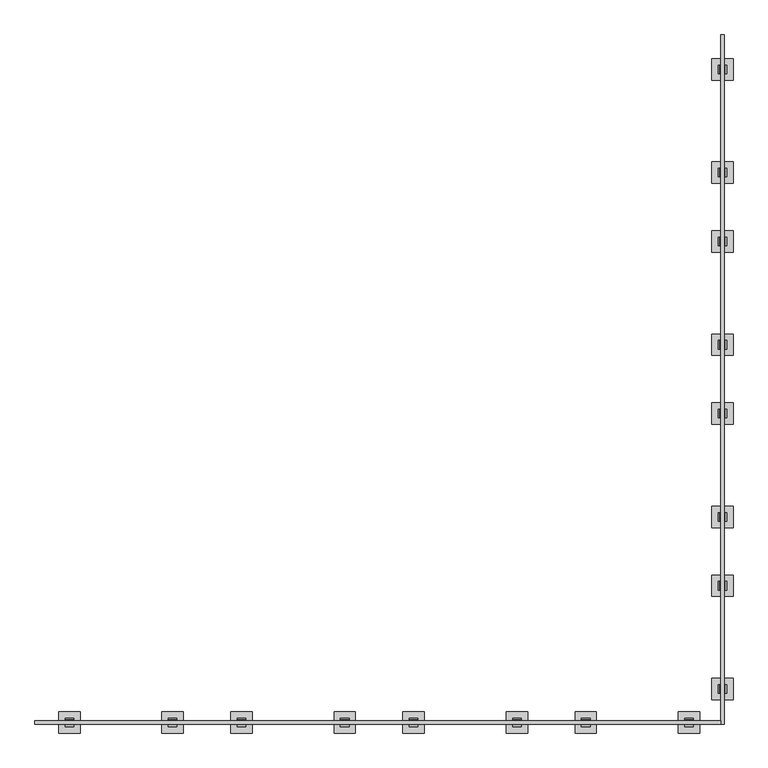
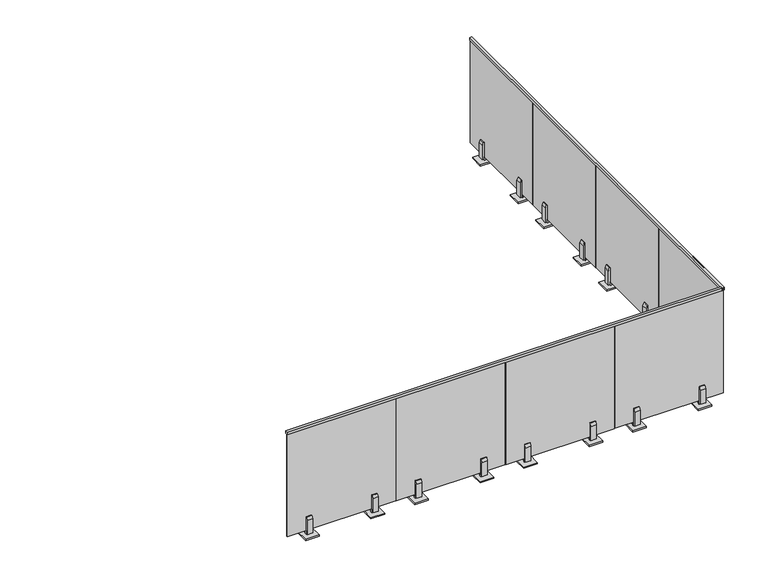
"""IFC4 building model written with IfcOpenShell, lengths in millimetres: railing geometry, VIVA-VISIO-Glass-Concrete Surface Mount-Straight."""

import ifcopenshell
import ifcopenshell.guid

model = None  # the IFC model being written
_history = None  # IfcOwnerHistory: only IFC2X3 demands one
_inside = {}  # id of a spatial element -> (the spatial element, [elements in it])
_under = {}  # id of a project, library or spatial element -> (it, [spatial elements below it])
_declared = {}  # id of a project -> (the project, [libraries it declares])
_typed = {}  # id of a type object -> (the type object, [elements of that type])
_made_of = {}  # id of a material, layer set ... -> (it, [elements and type objects made of it])


def new_model(schema):
    """Start an empty IFC model of exactly this schema.

    Asked for "IFC4X3", IfcOpenShell would pick the latest addendum, in which some entities
    have other attributes; the version numbers below select the first issue.
    IFC2X3 requires an IfcOwnerHistory on every rooted entity: one is made here for all.
    """
    global model, _history
    if schema == "IFC4X3":
        model = ifcopenshell.file(schema_version=(4, 3, 0, 0))
    else:
        model = ifcopenshell.file(schema=schema)
    _inside.clear()
    _under.clear()
    _declared.clear()
    _typed.clear()
    _made_of.clear()
    _history = None
    if model.schema == "IFC2X3":
        org = make("IfcOrganization", Name="unknown")
        user = make(
            "IfcPersonAndOrganization",
            ThePerson=make("IfcPerson", FamilyName="unknown"),
            TheOrganization=org,
        )
        app = make(
            "IfcApplication",
            ApplicationDeveloper=org,
            Version="unknown",
            ApplicationFullName="unknown",
            ApplicationIdentifier="unknown",
        )
        _history = make(
            "IfcOwnerHistory",
            OwningUser=user,
            OwningApplication=app,
            ChangeAction="ADDED",
            CreationDate=0,
        )
    return model


def make(cls, **values):
    """One entity of the class cls with the attributes given. An attribute that is None is left unset."""
    return model.create_entity(
        cls, **{name: value for name, value in values.items() if value is not None}
    )


def rooted(cls, **values):
    """An entity with a GlobalId (a new one), such as an element, a storey or a relation."""
    return make(cls, GlobalId=ifcopenshell.guid.new(), OwnerHistory=_history, **values)


def si_unit(unit_type, name, prefix=None):
    """IfcSIUnit, for example si_unit("LENGTHUNIT", "METRE", prefix="MILLI")."""
    return make("IfcSIUnit", UnitType=unit_type, Prefix=prefix, Name=name)


def assignment(units):
    """IfcUnitAssignment: the units of a project."""
    return None if units is None else make("IfcUnitAssignment", Units=units)


def point(xyz):
    """IfcCartesianPoint."""
    return None if xyz is None else make("IfcCartesianPoint", Coordinates=xyz)


def direction(xyz):
    """IfcDirection."""
    return None if xyz is None else make("IfcDirection", DirectionRatios=xyz)


def frame(location, z_axis=None, x_axis=None):
    """IfcAxis2Placement3D, a coordinate frame: its origin and axes. An axis left out is left unset."""
    return make(
        "IfcAxis2Placement3D",
        Location=point(location),
        Axis=direction(z_axis),
        RefDirection=direction(x_axis),
    )


def origin():
    """The frame at (0, 0, 0) with its axes left unset."""
    return frame((0.0, 0.0, 0.0))


def place(relative_to, where):
    """IfcLocalPlacement: puts the frame where relative to a parent placement (None: the world)."""
    return make(
        "IfcLocalPlacement", PlacementRelTo=relative_to, RelativePlacement=where
    )


def context(
    kind, dimensions, precision=None, world=None, true_north=None, identifier=None
):
    """IfcGeometricRepresentationContext, for example the 3D "Model" context."""
    return make(
        "IfcGeometricRepresentationContext",
        ContextIdentifier=identifier,
        ContextType=kind,
        CoordinateSpaceDimension=dimensions,
        Precision=precision,
        WorldCoordinateSystem=world,
        TrueNorth=true_north,
    )


def project(units=None, contexts=None):
    """IfcProject with its units and contexts."""
    return rooted(
        "IfcProject",
        Name="project",
        RepresentationContexts=contexts,
        UnitsInContext=assignment(units),
    )


def spatial(cls, under=None, at=None, **own):
    """A site, building, storey or space (cls), placed at a placement, below another one or the project."""
    s = rooted(cls, ObjectPlacement=at, **own)
    if under is not None:
        _under.setdefault(under.id(), (under, []))[1].append(s)
    return s


def polyline(points):
    """IfcPolyline through the points."""
    return make("IfcPolyline", Points=[point(p) for p in points])


def outline(outer, holes=None, kind="AREA"):
    """IfcArbitraryClosedProfileDef: a profile drawn as a closed curve; with holes, ...WithVoids."""
    if holes is None:
        return make("IfcArbitraryClosedProfileDef", ProfileType=kind, OuterCurve=outer)
    return make(
        "IfcArbitraryProfileDefWithVoids",
        ProfileType=kind,
        OuterCurve=outer,
        InnerCurves=holes,
    )


def extrude(swept, where, along, depth):
    """IfcExtrudedAreaSolid: the profile swept, set in the frame where, extruded along a direction by depth."""
    return make(
        "IfcExtrudedAreaSolid",
        SweptArea=swept,
        Position=where,
        ExtrudedDirection=direction(along),
        Depth=depth,
    )


def shape(context_of_items, identifier, shape_type, items):
    """IfcShapeRepresentation: the items that make up one representation, for example the "Body"."""
    return make(
        "IfcShapeRepresentation",
        ContextOfItems=context_of_items,
        RepresentationIdentifier=identifier,
        RepresentationType=shape_type,
        Items=items,
    )


def source(mapping_origin, context_of_items, identifier, shape_type, items):
    """IfcRepresentationMap: a shape defined once, which mapped items show again and again."""
    return make(
        "IfcRepresentationMap",
        MappingOrigin=mapping_origin,
        MappedRepresentation=shape(context_of_items, identifier, shape_type, items),
    )


def transform(
    local_origin,
    x_axis=None,
    y_axis=None,
    z_axis=None,
    scale=None,
    scale2=None,
    scale3=None,
    uniform=True,
):
    """IfcCartesianTransformationOperator3D, or its non-uniform kind. x_axis, y_axis, z_axis: its Axis1, 2, 3."""
    if uniform:
        return make(
            "IfcCartesianTransformationOperator3D",
            Axis1=direction(x_axis),
            Axis2=direction(y_axis),
            LocalOrigin=point(local_origin),
            Scale=scale,
            Axis3=direction(z_axis),
        )
    return make(
        "IfcCartesianTransformationOperator3DnonUniform",
        Axis1=direction(x_axis),
        Axis2=direction(y_axis),
        LocalOrigin=point(local_origin),
        Scale=scale,
        Axis3=direction(z_axis),
        Scale2=scale2,
        Scale3=scale3,
    )


def mapped(mapping_source, mapping_target):
    """IfcMappedItem: shows the shape of a source again, moved by a transform."""
    return make(
        "IfcMappedItem", MappingSource=mapping_source, MappingTarget=mapping_target
    )


def made_of(thing, what):
    """Note that an element or type object is made of a material, layer set ...; save() writes the relation."""
    if what is not None:
        _made_of.setdefault(what.id(), (what, []))[1].append(thing)
    return thing


def element(
    cls,
    number,
    at=None,
    inside=None,
    cuts=None,
    type_object=None,
    material=None,
    context=None,
    identifier="Body",
    shape_type=None,
    held_by="IfcProductDefinitionShape",
    body=None,
    shapes=None,
    **own,
):
    """One element of the class cls, such as IfcWall. Its Tag is "e" and its number.

    at: its placement. inside: the storey or other place that contains it. cuts: it is an
    opening in that element (IfcRelVoidsElement). A single representation is given by context,
    identifier, shape_type and body (its items); several are given by shapes. held_by: the class
    of the entity that holds the representations. save() writes the other relations.
    """
    e = rooted(cls, Tag="e%d" % number, ObjectPlacement=at, **own)
    if body is not None:
        shapes = [shape(context, identifier, shape_type, body)]
    if shapes is not None:
        e.Representation = make(held_by, Representations=shapes)
    if inside is not None:
        _inside.setdefault(inside.id(), (inside, []))[1].append(e)
    if cuts is not None:
        rooted(
            "IfcRelVoidsElement", RelatingBuildingElement=cuts, RelatedOpeningElement=e
        )
    if type_object is not None:
        _typed.setdefault(type_object.id(), (type_object, []))[1].append(e)
    return made_of(e, material)


def aggregate(whole, parts):
    """IfcRelAggregates: a whole, such as a stair, and the parts it consists of."""
    return rooted("IfcRelAggregates", RelatingObject=whole, RelatedObjects=parts)


def save(model, path):
    """Write the relations noted so far, then the file.

    IfcRelAggregates (storeys below a building ...), IfcRelContainedInSpatialStructure (elements
    in a storey), IfcRelDefinesByType, IfcRelAssociatesMaterial and IfcRelDeclares: one each for
    every whole, place, type object, material and project.
    """
    for whole, parts in _under.values():
        aggregate(whole, parts)
    for where, things in _inside.values():
        rooted(
            "IfcRelContainedInSpatialStructure",
            RelatedElements=things,
            RelatingStructure=where,
        )
    for kind, things in _typed.values():
        rooted("IfcRelDefinesByType", RelatedObjects=things, RelatingType=kind)
    for what, things in _made_of.values():
        rooted("IfcRelAssociatesMaterial", RelatedObjects=things, RelatingMaterial=what)
    for by, libraries in _declared.values():
        rooted("IfcRelDeclares", RelatingContext=by, RelatedDefinitions=libraries)
    model.write(path)


def railing_999654d2(model_context):
    return source(origin(), model_context, "Body", "SweptSolid", [
        extrude(outline(polyline([(-2412.5473017, 4140.2), (-2412.5473017, 4114.8), (-2417.0617549, 4114.8), (-2417.0617549, 4136.39), (-2429.7617549, 4136.39), (-2429.7617549, 4114.8), (-2434.276208, 4114.8), (-2434.276208, 4140.2), (-2412.5473017, 4140.2)])), frame((30452.8112561, 0.0, 0.0), z_axis=(1.0, 0.0, 0.0), x_axis=(0.0, 1.0, 0.0)), (0.0, 0.0, 1.0), 4072.1855469),
        extrude(outline(polyline([(4140.2, 34524.9968029), (4114.8, 34524.9968029), (4114.8, 34529.5112561), (4136.39, 34529.5112561), (4136.39, 34542.2112561), (4114.8, 34542.2112561), (4114.8, 34546.7257092), (4140.2, 34546.7257092), (4140.2, 34524.9968029)])), frame((0.0, -2434.276208, 0.0), z_axis=(0.0, 1.0, 0.0), x_axis=(0.0, 0.0, 1.0)), (0.0, 0.0, 1.0), 4093.9144531),
        extrude(outline(polyline([(34472.3612561, 1518.6682451), (34599.3612561, 1518.6682451), (34599.3612561, 1391.6682451), (34472.3612561, 1391.6682451), (34472.3612561, 1518.6682451)])), frame((0.0, 0.0, 3048.0), z_axis=(0.0, 0.0, 1.0), x_axis=(1.0, 0.0, 0.0)), (0.0, 0.0, 1.0), 12.7),
        extrude(outline(polyline([(34529.5112561, 1429.7682451), (34529.5112561, 1480.5682451), (34542.2112561, 1480.5682451), (34542.2112561, 1429.7682451), (34529.5112561, 1429.7682451)])), frame((0.0, 0.0, 3048.0), z_axis=(0.0, 0.0, 1.0), x_axis=(1.0, 0.0, 0.0)), (0.0, 0.0, 1.0), 50.8),
        extrude(outline(polyline([(3071.8125, 34510.4612561), (3071.8125, 34529.5112561), (3238.5, 34529.5112561), (3238.5, 34521.5737561), (3211.5125, 34510.4612561), (3071.8125, 34510.4612561)])), frame((0.0, 1429.7682451, 0.0), z_axis=(0.0, 1.0, 0.0), x_axis=(0.0, 0.0, 1.0)), (0.0, 0.0, 1.0), 50.8),
        extrude(outline(polyline([(3071.8125, 34561.2612561), (3211.5125, 34561.2612561), (3238.5, 34550.1487561), (3238.5, 34542.2112561), (3071.8125, 34542.2112561), (3071.8125, 34561.2612561)])), frame((0.0, 1429.7682451, 0.0), z_axis=(0.0, 1.0, 0.0), x_axis=(0.0, 0.0, 1.0)), (0.0, 0.0, 1.0), 50.8),
        extrude(outline(polyline([(34529.5112561, 640.8462917), (34529.5112561, 1656.8462917), (34542.2112561, 1656.8462917), (34542.2112561, 640.8462917), (34529.5112561, 640.8462917)])), frame((0.0, 0.0, 3098.8), z_axis=(0.0, 0.0, 1.0), x_axis=(1.0, 0.0, 0.0)), (0.0, 0.0, 1.0), 1036.0025),
        extrude(outline(polyline([(34472.3612561, 905.2582451), (34599.3612561, 905.2582451), (34599.3612561, 778.2582451), (34472.3612561, 778.2582451), (34472.3612561, 905.2582451)])), frame((0.0, 0.0, 3048.0), z_axis=(0.0, 0.0, 1.0), x_axis=(1.0, 0.0, 0.0)), (0.0, 0.0, 1.0), 12.7),
        extrude(outline(polyline([(34529.5112561, 816.3582451), (34529.5112561, 867.1582451), (34542.2112561, 867.1582451), (34542.2112561, 816.3582451), (34529.5112561, 816.3582451)])), frame((0.0, 0.0, 3048.0), z_axis=(0.0, 0.0, 1.0), x_axis=(1.0, 0.0, 0.0)), (0.0, 0.0, 1.0), 50.8),
        extrude(outline(polyline([(3071.8125, 34510.4612561), (3071.8125, 34529.5112561), (3238.5, 34529.5112561), (3238.5, 34521.5737561), (3211.5125, 34510.4612561), (3071.8125, 34510.4612561)])), frame((0.0, 816.3582451, 0.0), z_axis=(0.0, 1.0, 0.0), x_axis=(0.0, 0.0, 1.0)), (0.0, 0.0, 1.0), 50.8),
        extrude(outline(polyline([(3071.8125, 34561.2612561), (3211.5125, 34561.2612561), (3238.5, 34550.1487561), (3238.5, 34542.2112561), (3071.8125, 34542.2112561), (3071.8125, 34561.2612561)])), frame((0.0, 816.3582451, 0.0), z_axis=(0.0, 1.0, 0.0), x_axis=(0.0, 0.0, 1.0)), (0.0, 0.0, 1.0), 50.8),
        extrude(outline(polyline([(34472.3612561, 496.3182451), (34599.3612561, 496.3182451), (34599.3612561, 369.3182451), (34472.3612561, 369.3182451), (34472.3612561, 496.3182451)])), frame((0.0, 0.0, 3048.0), z_axis=(0.0, 0.0, 1.0), x_axis=(1.0, 0.0, 0.0)), (0.0, 0.0, 1.0), 12.7),
        extrude(outline(polyline([(34529.5112561, 407.4182451), (34529.5112561, 458.2182451), (34542.2112561, 458.2182451), (34542.2112561, 407.4182451), (34529.5112561, 407.4182451)])), frame((0.0, 0.0, 3048.0), z_axis=(0.0, 0.0, 1.0), x_axis=(1.0, 0.0, 0.0)), (0.0, 0.0, 1.0), 50.8),
        extrude(outline(polyline([(3071.8125, 34510.4612561), (3071.8125, 34529.5112561), (3238.5, 34529.5112561), (3238.5, 34521.5737561), (3211.5125, 34510.4612561), (3071.8125, 34510.4612561)])), frame((0.0, 407.4182451, 0.0), z_axis=(0.0, 1.0, 0.0), x_axis=(0.0, 0.0, 1.0)), (0.0, 0.0, 1.0), 50.8),
        extrude(outline(polyline([(3071.8125, 34561.2612561), (3211.5125, 34561.2612561), (3238.5, 34550.1487561), (3238.5, 34542.2112561), (3071.8125, 34542.2112561), (3071.8125, 34561.2612561)])), frame((0.0, 407.4182451, 0.0), z_axis=(0.0, 1.0, 0.0), x_axis=(0.0, 0.0, 1.0)), (0.0, 0.0, 1.0), 50.8),
        extrude(outline(polyline([(34529.5112561, -381.5037083), (34529.5112561, 634.4962917), (34542.2112561, 634.4962917), (34542.2112561, -381.5037083), (34529.5112561, -381.5037083)])), frame((0.0, 0.0, 3098.8), z_axis=(0.0, 0.0, 1.0), x_axis=(1.0, 0.0, 0.0)), (0.0, 0.0, 1.0), 1036.0025),
        extrude(outline(polyline([(34472.3612561, -117.0917549), (34599.3612561, -117.0917549), (34599.3612561, -244.0917549), (34472.3612561, -244.0917549), (34472.3612561, -117.0917549)])), frame((0.0, 0.0, 3048.0), z_axis=(0.0, 0.0, 1.0), x_axis=(1.0, 0.0, 0.0)), (0.0, 0.0, 1.0), 12.7),
        extrude(outline(polyline([(34529.5112561, -205.9917549), (34529.5112561, -155.1917549), (34542.2112561, -155.1917549), (34542.2112561, -205.9917549), (34529.5112561, -205.9917549)])), frame((0.0, 0.0, 3048.0), z_axis=(0.0, 0.0, 1.0), x_axis=(1.0, 0.0, 0.0)), (0.0, 0.0, 1.0), 50.8),
        extrude(outline(polyline([(3071.8125, 34510.4612561), (3071.8125, 34529.5112561), (3238.5, 34529.5112561), (3238.5, 34521.5737561), (3211.5125, 34510.4612561), (3071.8125, 34510.4612561)])), frame((0.0, -205.9917549, 0.0), z_axis=(0.0, 1.0, 0.0), x_axis=(0.0, 0.0, 1.0)), (0.0, 0.0, 1.0), 50.8),
        extrude(outline(polyline([(3071.8125, 34561.2612561), (3211.5125, 34561.2612561), (3238.5, 34550.1487561), (3238.5, 34542.2112561), (3071.8125, 34542.2112561), (3071.8125, 34561.2612561)])), frame((0.0, -205.9917549, 0.0), z_axis=(0.0, 1.0, 0.0), x_axis=(0.0, 0.0, 1.0)), (0.0, 0.0, 1.0), 50.8),
        extrude(outline(polyline([(34472.3612561, -526.0317549), (34599.3612561, -526.0317549), (34599.3612561, -653.0317549), (34472.3612561, -653.0317549), (34472.3612561, -526.0317549)])), frame((0.0, 0.0, 3048.0), z_axis=(0.0, 0.0, 1.0), x_axis=(1.0, 0.0, 0.0)), (0.0, 0.0, 1.0), 12.7),
        extrude(outline(polyline([(34529.5112561, -614.9317549), (34529.5112561, -564.1317549), (34542.2112561, -564.1317549), (34542.2112561, -614.9317549), (34529.5112561, -614.9317549)])), frame((0.0, 0.0, 3048.0), z_axis=(0.0, 0.0, 1.0), x_axis=(1.0, 0.0, 0.0)), (0.0, 0.0, 1.0), 50.8),
        extrude(outline(polyline([(3071.8125, 34510.4612561), (3071.8125, 34529.5112561), (3238.5, 34529.5112561), (3238.5, 34521.5737561), (3211.5125, 34510.4612561), (3071.8125, 34510.4612561)])), frame((0.0, -614.9317549, 0.0), z_axis=(0.0, 1.0, 0.0), x_axis=(0.0, 0.0, 1.0)), (0.0, 0.0, 1.0), 50.8),
        extrude(outline(polyline([(3071.8125, 34561.2612561), (3211.5125, 34561.2612561), (3238.5, 34550.1487561), (3238.5, 34542.2112561), (3071.8125, 34542.2112561), (3071.8125, 34561.2612561)])), frame((0.0, -614.9317549, 0.0), z_axis=(0.0, 1.0, 0.0), x_axis=(0.0, 0.0, 1.0)), (0.0, 0.0, 1.0), 50.8),
        extrude(outline(polyline([(34529.5112561, -1403.8537083), (34529.5112561, -387.8537083), (34542.2112561, -387.8537083), (34542.2112561, -1403.8537083), (34529.5112561, -1403.8537083)])), frame((0.0, 0.0, 3098.8), z_axis=(0.0, 0.0, 1.0), x_axis=(1.0, 0.0, 0.0)), (0.0, 0.0, 1.0), 1036.0025),
        extrude(outline(polyline([(34472.3612561, -1139.4417549), (34599.3612561, -1139.4417549), (34599.3612561, -1266.4417549), (34472.3612561, -1266.4417549), (34472.3612561, -1139.4417549)])), frame((0.0, 0.0, 3048.0), z_axis=(0.0, 0.0, 1.0), x_axis=(1.0, 0.0, 0.0)), (0.0, 0.0, 1.0), 12.7),
        extrude(outline(polyline([(34529.5112561, -1228.3417549), (34529.5112561, -1177.5417549), (34542.2112561, -1177.5417549), (34542.2112561, -1228.3417549), (34529.5112561, -1228.3417549)])), frame((0.0, 0.0, 3048.0), z_axis=(0.0, 0.0, 1.0), x_axis=(1.0, 0.0, 0.0)), (0.0, 0.0, 1.0), 50.8),
        extrude(outline(polyline([(3071.8125, 34510.4612561), (3071.8125, 34529.5112561), (3238.5, 34529.5112561), (3238.5, 34521.5737561), (3211.5125, 34510.4612561), (3071.8125, 34510.4612561)])), frame((0.0, -1228.3417549, 0.0), z_axis=(0.0, 1.0, 0.0), x_axis=(0.0, 0.0, 1.0)), (0.0, 0.0, 1.0), 50.8),
        extrude(outline(polyline([(3071.8125, 34561.2612561), (3211.5125, 34561.2612561), (3238.5, 34550.1487561), (3238.5, 34542.2112561), (3071.8125, 34542.2112561), (3071.8125, 34561.2612561)])), frame((0.0, -1228.3417549, 0.0), z_axis=(0.0, 1.0, 0.0), x_axis=(0.0, 0.0, 1.0)), (0.0, 0.0, 1.0), 50.8),
        extrude(outline(polyline([(34472.3612561, -1548.3817549), (34599.3612561, -1548.3817549), (34599.3612561, -1675.3817549), (34472.3612561, -1675.3817549), (34472.3612561, -1548.3817549)])), frame((0.0, 0.0, 3048.0), z_axis=(0.0, 0.0, 1.0), x_axis=(1.0, 0.0, 0.0)), (0.0, 0.0, 1.0), 12.7),
        extrude(outline(polyline([(34529.5112561, -1637.2817549), (34529.5112561, -1586.4817549), (34542.2112561, -1586.4817549), (34542.2112561, -1637.2817549), (34529.5112561, -1637.2817549)])), frame((0.0, 0.0, 3048.0), z_axis=(0.0, 0.0, 1.0), x_axis=(1.0, 0.0, 0.0)), (0.0, 0.0, 1.0), 50.8),
        extrude(outline(polyline([(3071.8125, 34510.4612561), (3071.8125, 34529.5112561), (3238.5, 34529.5112561), (3238.5, 34521.5737561), (3211.5125, 34510.4612561), (3071.8125, 34510.4612561)])), frame((0.0, -1637.2817549, 0.0), z_axis=(0.0, 1.0, 0.0), x_axis=(0.0, 0.0, 1.0)), (0.0, 0.0, 1.0), 50.8),
        extrude(outline(polyline([(3071.8125, 34561.2612561), (3211.5125, 34561.2612561), (3238.5, 34550.1487561), (3238.5, 34542.2112561), (3071.8125, 34542.2112561), (3071.8125, 34561.2612561)])), frame((0.0, -1637.2817549, 0.0), z_axis=(0.0, 1.0, 0.0), x_axis=(0.0, 0.0, 1.0)), (0.0, 0.0, 1.0), 50.8),
        extrude(outline(polyline([(34529.5112561, -2426.2037083), (34529.5112561, -1410.2037083), (34542.2112561, -1410.2037083), (34542.2112561, -2426.2037083), (34529.5112561, -2426.2037083)])), frame((0.0, 0.0, 3098.8), z_axis=(0.0, 0.0, 1.0), x_axis=(1.0, 0.0, 0.0)), (0.0, 0.0, 1.0), 1036.0025),
        extrude(outline(polyline([(34472.3612561, -2161.7917549), (34599.3612561, -2161.7917549), (34599.3612561, -2288.7917549), (34472.3612561, -2288.7917549), (34472.3612561, -2161.7917549)])), frame((0.0, 0.0, 3048.0), z_axis=(0.0, 0.0, 1.0), x_axis=(1.0, 0.0, 0.0)), (0.0, 0.0, 1.0), 12.7),
        extrude(outline(polyline([(34529.5112561, -2250.6917549), (34529.5112561, -2199.8917549), (34542.2112561, -2199.8917549), (34542.2112561, -2250.6917549), (34529.5112561, -2250.6917549)])), frame((0.0, 0.0, 3048.0), z_axis=(0.0, 0.0, 1.0), x_axis=(1.0, 0.0, 0.0)), (0.0, 0.0, 1.0), 50.8),
        extrude(outline(polyline([(3071.8125, 34510.4612561), (3071.8125, 34529.5112561), (3238.5, 34529.5112561), (3238.5, 34521.5737561), (3211.5125, 34510.4612561), (3071.8125, 34510.4612561)])), frame((0.0, -2250.6917549, 0.0), z_axis=(0.0, 1.0, 0.0), x_axis=(0.0, 0.0, 1.0)), (0.0, 0.0, 1.0), 50.8),
        extrude(outline(polyline([(3071.8125, 34561.2612561), (3211.5125, 34561.2612561), (3238.5, 34550.1487561), (3238.5, 34542.2112561), (3071.8125, 34542.2112561), (3071.8125, 34561.2612561)])), frame((0.0, -2250.6917549, 0.0), z_axis=(0.0, 1.0, 0.0), x_axis=(0.0, 0.0, 1.0)), (0.0, 0.0, 1.0), 50.8),
        extrude(outline(polyline([(34401.2412561, -2359.9117549), (34401.2412561, -2486.9117549), (34274.2412561, -2486.9117549), (34274.2412561, -2359.9117549), (34401.2412561, -2359.9117549)])), frame((0.0, 0.0, 3048.0), z_axis=(0.0, 0.0, 1.0), x_axis=(1.0, 0.0, 0.0)), (0.0, 0.0, 1.0), 12.7),
        extrude(outline(polyline([(34312.3412561, -2417.0617549), (34363.1412561, -2417.0617549), (34363.1412561, -2429.7617549), (34312.3412561, -2429.7617549), (34312.3412561, -2417.0617549)])), frame((0.0, 0.0, 3048.0), z_axis=(0.0, 0.0, 1.0), x_axis=(1.0, 0.0, 0.0)), (0.0, 0.0, 1.0), 50.8),
        extrude(outline(polyline([(-2398.0117549, 3071.8125), (-2417.0617549, 3071.8125), (-2417.0617549, 3238.5), (-2409.1242549, 3238.5), (-2398.0117549, 3211.5125), (-2398.0117549, 3071.8125)])), frame((34312.3412561, 0.0, 0.0), z_axis=(1.0, 0.0, 0.0), x_axis=(0.0, 1.0, 0.0)), (0.0, 0.0, 1.0), 50.8),
        extrude(outline(polyline([(-2448.8117549, 3071.8125), (-2448.8117549, 3211.5125), (-2437.6992549, 3238.5), (-2429.7617549, 3238.5), (-2429.7617549, 3071.8125), (-2448.8117549, 3071.8125)])), frame((34312.3412561, 0.0, 0.0), z_axis=(1.0, 0.0, 0.0), x_axis=(0.0, 1.0, 0.0)), (0.0, 0.0, 1.0), 50.8),
        extrude(outline(polyline([(33523.4193027, -2417.0617549), (34539.4193027, -2417.0617549), (34539.4193027, -2429.7617549), (33523.4193027, -2429.7617549), (33523.4193027, -2417.0617549)])), frame((0.0, 0.0, 3098.8), z_axis=(0.0, 0.0, 1.0), x_axis=(1.0, 0.0, 0.0)), (0.0, 0.0, 1.0), 1036.0025),
        extrude(outline(polyline([(33787.8312561, -2359.9117549), (33787.8312561, -2486.9117549), (33660.8312561, -2486.9117549), (33660.8312561, -2359.9117549), (33787.8312561, -2359.9117549)])), frame((0.0, 0.0, 3048.0), z_axis=(0.0, 0.0, 1.0), x_axis=(1.0, 0.0, 0.0)), (0.0, 0.0, 1.0), 12.7),
        extrude(outline(polyline([(33698.9312561, -2417.0617549), (33749.7312561, -2417.0617549), (33749.7312561, -2429.7617549), (33698.9312561, -2429.7617549), (33698.9312561, -2417.0617549)])), frame((0.0, 0.0, 3048.0), z_axis=(0.0, 0.0, 1.0), x_axis=(1.0, 0.0, 0.0)), (0.0, 0.0, 1.0), 50.8),
        extrude(outline(polyline([(-2398.0117549, 3071.8125), (-2417.0617549, 3071.8125), (-2417.0617549, 3238.5), (-2409.1242549, 3238.5), (-2398.0117549, 3211.5125), (-2398.0117549, 3071.8125)])), frame((33698.9312561, 0.0, 0.0), z_axis=(1.0, 0.0, 0.0), x_axis=(0.0, 1.0, 0.0)), (0.0, 0.0, 1.0), 50.8),
        extrude(outline(polyline([(-2448.8117549, 3071.8125), (-2448.8117549, 3211.5125), (-2437.6992549, 3238.5), (-2429.7617549, 3238.5), (-2429.7617549, 3071.8125), (-2448.8117549, 3071.8125)])), frame((33698.9312561, 0.0, 0.0), z_axis=(1.0, 0.0, 0.0), x_axis=(0.0, 1.0, 0.0)), (0.0, 0.0, 1.0), 50.8),
        extrude(outline(polyline([(33378.8912561, -2359.9117549), (33378.8912561, -2486.9117549), (33251.8912561, -2486.9117549), (33251.8912561, -2359.9117549), (33378.8912561, -2359.9117549)])), frame((0.0, 0.0, 3048.0), z_axis=(0.0, 0.0, 1.0), x_axis=(1.0, 0.0, 0.0)), (0.0, 0.0, 1.0), 12.7),
        extrude(outline(polyline([(33289.9912561, -2417.0617549), (33340.7912561, -2417.0617549), (33340.7912561, -2429.7617549), (33289.9912561, -2429.7617549), (33289.9912561, -2417.0617549)])), frame((0.0, 0.0, 3048.0), z_axis=(0.0, 0.0, 1.0), x_axis=(1.0, 0.0, 0.0)), (0.0, 0.0, 1.0), 50.8),
        extrude(outline(polyline([(-2398.0117549, 3071.8125), (-2417.0617549, 3071.8125), (-2417.0617549, 3238.5), (-2409.1242549, 3238.5), (-2398.0117549, 3211.5125), (-2398.0117549, 3071.8125)])), frame((33289.9912561, 0.0, 0.0), z_axis=(1.0, 0.0, 0.0), x_axis=(0.0, 1.0, 0.0)), (0.0, 0.0, 1.0), 50.8),
        extrude(outline(polyline([(-2448.8117549, 3071.8125), (-2448.8117549, 3211.5125), (-2437.6992549, 3238.5), (-2429.7617549, 3238.5), (-2429.7617549, 3071.8125), (-2448.8117549, 3071.8125)])), frame((33289.9912561, 0.0, 0.0), z_axis=(1.0, 0.0, 0.0), x_axis=(0.0, 1.0, 0.0)), (0.0, 0.0, 1.0), 50.8),
        extrude(outline(polyline([(32501.0693027, -2417.0617549), (33517.0693027, -2417.0617549), (33517.0693027, -2429.7617549), (32501.0693027, -2429.7617549), (32501.0693027, -2417.0617549)])), frame((0.0, 0.0, 3098.8), z_axis=(0.0, 0.0, 1.0), x_axis=(1.0, 0.0, 0.0)), (0.0, 0.0, 1.0), 1036.0025),
        extrude(outline(polyline([(32765.4812561, -2359.9117549), (32765.4812561, -2486.9117549), (32638.4812561, -2486.9117549), (32638.4812561, -2359.9117549), (32765.4812561, -2359.9117549)])), frame((0.0, 0.0, 3048.0), z_axis=(0.0, 0.0, 1.0), x_axis=(1.0, 0.0, 0.0)), (0.0, 0.0, 1.0), 12.7),
        extrude(outline(polyline([(32676.5812561, -2417.0617549), (32727.3812561, -2417.0617549), (32727.3812561, -2429.7617549), (32676.5812561, -2429.7617549), (32676.5812561, -2417.0617549)])), frame((0.0, 0.0, 3048.0), z_axis=(0.0, 0.0, 1.0), x_axis=(1.0, 0.0, 0.0)), (0.0, 0.0, 1.0), 50.8),
        extrude(outline(polyline([(-2398.0117549, 3071.8125), (-2417.0617549, 3071.8125), (-2417.0617549, 3238.5), (-2409.1242549, 3238.5), (-2398.0117549, 3211.5125), (-2398.0117549, 3071.8125)])), frame((32676.5812561, 0.0, 0.0), z_axis=(1.0, 0.0, 0.0), x_axis=(0.0, 1.0, 0.0)), (0.0, 0.0, 1.0), 50.8),
        extrude(outline(polyline([(-2448.8117549, 3071.8125), (-2448.8117549, 3211.5125), (-2437.6992549, 3238.5), (-2429.7617549, 3238.5), (-2429.7617549, 3071.8125), (-2448.8117549, 3071.8125)])), frame((32676.5812561, 0.0, 0.0), z_axis=(1.0, 0.0, 0.0), x_axis=(0.0, 1.0, 0.0)), (0.0, 0.0, 1.0), 50.8),
        extrude(outline(polyline([(32356.5412561, -2359.9117549), (32356.5412561, -2486.9117549), (32229.5412561, -2486.9117549), (32229.5412561, -2359.9117549), (32356.5412561, -2359.9117549)])), frame((0.0, 0.0, 3048.0), z_axis=(0.0, 0.0, 1.0), x_axis=(1.0, 0.0, 0.0)), (0.0, 0.0, 1.0), 12.7),
        extrude(outline(polyline([(32267.6412561, -2417.0617549), (32318.4412561, -2417.0617549), (32318.4412561, -2429.7617549), (32267.6412561, -2429.7617549), (32267.6412561, -2417.0617549)])), frame((0.0, 0.0, 3048.0), z_axis=(0.0, 0.0, 1.0), x_axis=(1.0, 0.0, 0.0)), (0.0, 0.0, 1.0), 50.8),
        extrude(outline(polyline([(-2398.0117549, 3071.8125), (-2417.0617549, 3071.8125), (-2417.0617549, 3238.5), (-2409.1242549, 3238.5), (-2398.0117549, 3211.5125), (-2398.0117549, 3071.8125)])), frame((32267.6412561, 0.0, 0.0), z_axis=(1.0, 0.0, 0.0), x_axis=(0.0, 1.0, 0.0)), (0.0, 0.0, 1.0), 50.8),
        extrude(outline(polyline([(-2448.8117549, 3071.8125), (-2448.8117549, 3211.5125), (-2437.6992549, 3238.5), (-2429.7617549, 3238.5), (-2429.7617549, 3071.8125), (-2448.8117549, 3071.8125)])), frame((32267.6412561, 0.0, 0.0), z_axis=(1.0, 0.0, 0.0), x_axis=(0.0, 1.0, 0.0)), (0.0, 0.0, 1.0), 50.8),
        extrude(outline(polyline([(31478.7193027, -2417.0617549), (32494.7193027, -2417.0617549), (32494.7193027, -2429.7617549), (31478.7193027, -2429.7617549), (31478.7193027, -2417.0617549)])), frame((0.0, 0.0, 3098.8), z_axis=(0.0, 0.0, 1.0), x_axis=(1.0, 0.0, 0.0)), (0.0, 0.0, 1.0), 1036.0025),
        extrude(outline(polyline([(31743.1312561, -2359.9117549), (31743.1312561, -2486.9117549), (31616.1312561, -2486.9117549), (31616.1312561, -2359.9117549), (31743.1312561, -2359.9117549)])), frame((0.0, 0.0, 3048.0), z_axis=(0.0, 0.0, 1.0), x_axis=(1.0, 0.0, 0.0)), (0.0, 0.0, 1.0), 12.7),
        extrude(outline(polyline([(31654.2312561, -2417.0617549), (31705.0312561, -2417.0617549), (31705.0312561, -2429.7617549), (31654.2312561, -2429.7617549), (31654.2312561, -2417.0617549)])), frame((0.0, 0.0, 3048.0), z_axis=(0.0, 0.0, 1.0), x_axis=(1.0, 0.0, 0.0)), (0.0, 0.0, 1.0), 50.8),
        extrude(outline(polyline([(-2398.0117549, 3071.8125), (-2417.0617549, 3071.8125), (-2417.0617549, 3238.5), (-2409.1242549, 3238.5), (-2398.0117549, 3211.5125), (-2398.0117549, 3071.8125)])), frame((31654.2312561, 0.0, 0.0), z_axis=(1.0, 0.0, 0.0), x_axis=(0.0, 1.0, 0.0)), (0.0, 0.0, 1.0), 50.8),
        extrude(outline(polyline([(-2448.8117549, 3071.8125), (-2448.8117549, 3211.5125), (-2437.6992549, 3238.5), (-2429.7617549, 3238.5), (-2429.7617549, 3071.8125), (-2448.8117549, 3071.8125)])), frame((31654.2312561, 0.0, 0.0), z_axis=(1.0, 0.0, 0.0), x_axis=(0.0, 1.0, 0.0)), (0.0, 0.0, 1.0), 50.8),
        extrude(outline(polyline([(31334.1912561, -2359.9117549), (31334.1912561, -2486.9117549), (31207.1912561, -2486.9117549), (31207.1912561, -2359.9117549), (31334.1912561, -2359.9117549)])), frame((0.0, 0.0, 3048.0), z_axis=(0.0, 0.0, 1.0), x_axis=(1.0, 0.0, 0.0)), (0.0, 0.0, 1.0), 12.7),
        extrude(outline(polyline([(31245.2912561, -2417.0617549), (31296.0912561, -2417.0617549), (31296.0912561, -2429.7617549), (31245.2912561, -2429.7617549), (31245.2912561, -2417.0617549)])), frame((0.0, 0.0, 3048.0), z_axis=(0.0, 0.0, 1.0), x_axis=(1.0, 0.0, 0.0)), (0.0, 0.0, 1.0), 50.8),
        extrude(outline(polyline([(-2398.0117549, 3071.8125), (-2417.0617549, 3071.8125), (-2417.0617549, 3238.5), (-2409.1242549, 3238.5), (-2398.0117549, 3211.5125), (-2398.0117549, 3071.8125)])), frame((31245.2912561, 0.0, 0.0), z_axis=(1.0, 0.0, 0.0), x_axis=(0.0, 1.0, 0.0)), (0.0, 0.0, 1.0), 50.8),
        extrude(outline(polyline([(-2448.8117549, 3071.8125), (-2448.8117549, 3211.5125), (-2437.6992549, 3238.5), (-2429.7617549, 3238.5), (-2429.7617549, 3071.8125), (-2448.8117549, 3071.8125)])), frame((31245.2912561, 0.0, 0.0), z_axis=(1.0, 0.0, 0.0), x_axis=(0.0, 1.0, 0.0)), (0.0, 0.0, 1.0), 50.8),
        extrude(outline(polyline([(30456.3693027, -2417.0617549), (31472.3693027, -2417.0617549), (31472.3693027, -2429.7617549), (30456.3693027, -2429.7617549), (30456.3693027, -2417.0617549)])), frame((0.0, 0.0, 3098.8), z_axis=(0.0, 0.0, 1.0), x_axis=(1.0, 0.0, 0.0)), (0.0, 0.0, 1.0), 1036.0025),
        extrude(outline(polyline([(30720.7812561, -2359.9117549), (30720.7812561, -2486.9117549), (30593.7812561, -2486.9117549), (30593.7812561, -2359.9117549), (30720.7812561, -2359.9117549)])), frame((0.0, 0.0, 3048.0), z_axis=(0.0, 0.0, 1.0), x_axis=(1.0, 0.0, 0.0)), (0.0, 0.0, 1.0), 12.7),
        extrude(outline(polyline([(30631.8812561, -2417.0617549), (30682.6812561, -2417.0617549), (30682.6812561, -2429.7617549), (30631.8812561, -2429.7617549), (30631.8812561, -2417.0617549)])), frame((0.0, 0.0, 3048.0), z_axis=(0.0, 0.0, 1.0), x_axis=(1.0, 0.0, 0.0)), (0.0, 0.0, 1.0), 50.8),
        extrude(outline(polyline([(-2398.0117549, 3071.8125), (-2417.0617549, 3071.8125), (-2417.0617549, 3238.5), (-2409.1242549, 3238.5), (-2398.0117549, 3211.5125), (-2398.0117549, 3071.8125)])), frame((30631.8812561, 0.0, 0.0), z_axis=(1.0, 0.0, 0.0), x_axis=(0.0, 1.0, 0.0)), (0.0, 0.0, 1.0), 50.8),
        extrude(outline(polyline([(-2448.8117549, 3071.8125), (-2448.8117549, 3211.5125), (-2437.6992549, 3238.5), (-2429.7617549, 3238.5), (-2429.7617549, 3071.8125), (-2448.8117549, 3071.8125)])), frame((30631.8812561, 0.0, 0.0), z_axis=(1.0, 0.0, 0.0), x_axis=(0.0, 1.0, 0.0)), (0.0, 0.0, 1.0), 50.8),
    ])


if __name__ == "__main__":
    model = new_model("IFC4")
    model_context = context("Model", 3, world=origin())
    ifc_project = project(units=[si_unit("LENGTHUNIT", "METRE", prefix="MILLI")], contexts=[model_context])
    site = spatial("IfcSite", under=ifc_project)
    building = spatial("IfcBuilding", under=site)
    placement = place(None, origin())
    railing_shape = railing_999654d2(model_context)
    element("IfcRailing", 1, ObjectType="VIVA-VISIO-Glass-Concrete Surface Mount-Straight", at=placement, inside=building, context=model_context, shape_type="MappedRepresentation", body=[
        mapped(railing_shape, transform((0.0, 0.0, 0.0), x_axis=(1.0, 0.0, 0.0), y_axis=(0.0, 1.0, 0.0), z_axis=(0.0, 0.0, 1.0))),
    ])
    save(model, "model.ifc")
